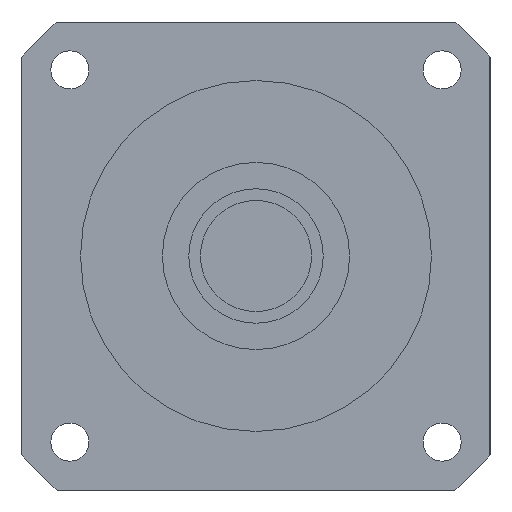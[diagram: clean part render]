
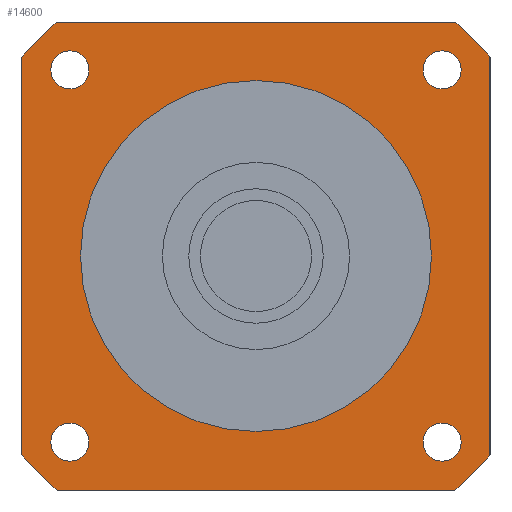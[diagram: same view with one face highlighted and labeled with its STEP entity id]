
A CAD part, left-side view. The second image highlights one B-rep face of the part: STEP entity #14600.
In plain terms, the highlighted planar face has unit normal (-1, 0, 0) as drawn and (0, 0, -1) by its records, which use the part's own axes.
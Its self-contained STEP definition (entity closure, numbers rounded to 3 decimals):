
#12930=CARTESIAN_POINT('',(-28.57,31.82,-42.2));
#12940=VERTEX_POINT('',#12930);
#12970=CARTESIAN_POINT('',(-31.82,31.82,-42.2));
#12980=DIRECTION('',(0.,0.,-1.));
#12990=DIRECTION('',(-1.,0.,0.));
#13000=AXIS2_PLACEMENT_3D('',#12970,#12980,#12990);
#13010=CIRCLE('',#13000,3.25);
#13020=CARTESIAN_POINT('',(-35.07,31.82,-42.2));
#13030=VERTEX_POINT('',#13020);
#13040=EDGE_CURVE('',#13030,#12940,#13010,.T.);
#13160=CARTESIAN_POINT('',(40.,40.,-42.2));
#13170=DIRECTION('',(0.,0.,-1.));
#13180=DIRECTION('',(1.,0.,0.));
#13190=AXIS2_PLACEMENT_3D('',#13160,#13170,#13180);
#13200=PLANE('',#13190);
#13210=CARTESIAN_POINT('',(-31.82,-31.82,-42.2));
#13220=DIRECTION('',(0.,0.,-1.));
#13230=DIRECTION('',(0.,-1.,0.));
#13240=AXIS2_PLACEMENT_3D('',#13210,#13220,#13230);
#13250=CIRCLE('',#13240,3.25);
#13260=CARTESIAN_POINT('',(-31.82,-35.07,-42.2));
#13270=VERTEX_POINT('',#13260);
#13280=CARTESIAN_POINT('',(-31.82,-28.57,-42.2));
#13290=VERTEX_POINT('',#13280);
#13300=EDGE_CURVE('',#13270,#13290,#13250,.T.);
#13310=ORIENTED_EDGE('',*,*,#13300,.F.);
#13320=EDGE_CURVE('',#13290,#13270,#13250,.T.);
#13330=ORIENTED_EDGE('',*,*,#13320,.F.);
#13340=EDGE_LOOP('',(#13330,#13310));
#13350=FACE_BOUND('',#13340,.T.);
#13360=ORIENTED_EDGE('',*,*,#13040,.F.);
#13370=EDGE_CURVE('',#12940,#13030,#13010,.T.);
#13380=ORIENTED_EDGE('',*,*,#13370,.F.);
#13390=EDGE_LOOP('',(#13380,#13360));
#13400=FACE_BOUND('',#13390,.T.);
#13410=CARTESIAN_POINT('',(31.82,31.82,-42.2));
#13420=DIRECTION('',(0.,0.,-1.));
#13430=DIRECTION('',(0.,1.,0.));
#13440=AXIS2_PLACEMENT_3D('',#13410,#13420,#13430);
#13450=CIRCLE('',#13440,3.25);
#13460=CARTESIAN_POINT('',(31.82,35.07,-42.2));
#13470=VERTEX_POINT('',#13460);
#13480=CARTESIAN_POINT('',(31.82,28.57,-42.2));
#13490=VERTEX_POINT('',#13480);
#13500=EDGE_CURVE('',#13470,#13490,#13450,.T.);
#13510=ORIENTED_EDGE('',*,*,#13500,.F.);
#13520=EDGE_CURVE('',#13490,#13470,#13450,.T.);
#13530=ORIENTED_EDGE('',*,*,#13520,.F.);
#13540=EDGE_LOOP('',(#13530,#13510));
#13550=FACE_BOUND('',#13540,.T.);
#13560=CARTESIAN_POINT('',(0.,0.,
-42.2));
#13570=DIRECTION('',(0.,0.,1.));
#13580=DIRECTION('',(0.,1.,0.));
#13590=AXIS2_PLACEMENT_3D('',#13560,#13570,#13580);
#13600=CIRCLE('',#13590,30.);
#13610=CARTESIAN_POINT('',(-30.,0.,-42.2));
#13620=VERTEX_POINT('',#13610);
#13630=CARTESIAN_POINT('',(30.,0.,-42.2));
#13640=VERTEX_POINT('',#13630);
#13650=EDGE_CURVE('',#13620,#13640,#13600,.T.);
#13660=ORIENTED_EDGE('',*,*,#13650,.T.);
#13670=CARTESIAN_POINT('',(0.,30.,-42.2));
#13680=VERTEX_POINT('',#13670);
#13690=EDGE_CURVE('',#13680,#13620,#13600,.T.);
#13700=ORIENTED_EDGE('',*,*,#13690,.T.);
#13710=EDGE_CURVE('',#13640,#13680,#13600,.T.);
#13720=ORIENTED_EDGE('',*,*,#13710,.T.);
#13730=EDGE_LOOP('',(#13720,#13700,#13660));
#13740=FACE_BOUND('',#13730,.T.);
#13750=CARTESIAN_POINT('',(-40.,40.,-42.2));
#13760=DIRECTION('',(1.,0.,0.));
#13770=VECTOR('',#13760,1000.);
#13780=LINE('',#13750,#13770);
#13790=CARTESIAN_POINT('',(-34.004,40.,-42.2));
#13800=VERTEX_POINT('',#13790);
#13810=CARTESIAN_POINT('',(34.004,40.,-42.2));
#13820=VERTEX_POINT('',#13810);
#13830=EDGE_CURVE('',#13800,#13820,#13780,.T.);
#13840=ORIENTED_EDGE('',*,*,#13830,.T.);
#13850=CARTESIAN_POINT('',(0.,0.,
-42.2));
#13860=DIRECTION('',(0.,0.,-1.));
#13870=DIRECTION('',(1.,0.,0.));
#13880=AXIS2_PLACEMENT_3D('',#13850,#13860,#13870);
#13890=CIRCLE('',#13880,52.5);
#13900=CARTESIAN_POINT('',(-40.,34.004,-42.2));
#13910=VERTEX_POINT('',#13900);
#13920=EDGE_CURVE('',#13910,#13800,#13890,.T.);
#13930=ORIENTED_EDGE('',*,*,#13920,.T.);
#13940=CARTESIAN_POINT('',(-40.,-40.,-42.2));
#13950=DIRECTION('',(0.,1.,0.));
#13960=VECTOR('',#13950,1000.);
#13970=LINE('',#13940,#13960);
#13980=CARTESIAN_POINT('',(-40.,-34.004,-42.2));
#13990=VERTEX_POINT('',#13980);
#14000=EDGE_CURVE('',#13990,#13910,#13970,.T.);
#14010=ORIENTED_EDGE('',*,*,#14000,.T.);
#14020=CARTESIAN_POINT('',(0.,0.,
-42.2));
#14030=DIRECTION('',(0.,0.,-1.));
#14040=DIRECTION('',(1.,0.,0.));
#14050=AXIS2_PLACEMENT_3D('',#14020,#14030,#14040);
#14060=CIRCLE('',#14050,52.5);
#14070=CARTESIAN_POINT('',(-34.004,-40.,-42.2));
#14080=VERTEX_POINT('',#14070);
#14090=EDGE_CURVE('',#14080,#13990,#14060,.T.);
#14100=ORIENTED_EDGE('',*,*,#14090,.T.);
#14110=CARTESIAN_POINT('',(40.,-40.,-42.2));
#14120=DIRECTION('',(-1.,0.,0.));
#14130=VECTOR('',#14120,1000.);
#14140=LINE('',#14110,#14130);
#14150=CARTESIAN_POINT('',(34.004,-40.,-42.2));
#14160=VERTEX_POINT('',#14150);
#14170=EDGE_CURVE('',#14160,#14080,#14140,.T.);
#14180=ORIENTED_EDGE('',*,*,#14170,.T.);
#14190=CARTESIAN_POINT('',(0.,0.,
-42.2));
#14200=DIRECTION('',(0.,0.,-1.));
#14210=DIRECTION('',(1.,0.,0.));
#14220=AXIS2_PLACEMENT_3D('',#14190,#14200,#14210);
#14230=CIRCLE('',#14220,52.5);
#14240=CARTESIAN_POINT('',(40.,-34.004,-42.2));
#14250=VERTEX_POINT('',#14240);
#14260=EDGE_CURVE('',#14250,#14160,#14230,.T.);
#14270=ORIENTED_EDGE('',*,*,#14260,.T.);
#14280=CARTESIAN_POINT('',(40.,40.,-42.2));
#14290=DIRECTION('',(0.,-1.,0.));
#14300=VECTOR('',#14290,1000.);
#14310=LINE('',#14280,#14300);
#14320=CARTESIAN_POINT('',(40.,34.004,-42.2));
#14330=VERTEX_POINT('',#14320);
#14340=EDGE_CURVE('',#14330,#14250,#14310,.T.);
#14350=ORIENTED_EDGE('',*,*,#14340,.T.);
#14360=CARTESIAN_POINT('',(0.,0.,
-42.2));
#14370=DIRECTION('',(0.,0.,-1.));
#14380=DIRECTION('',(1.,0.,0.));
#14390=AXIS2_PLACEMENT_3D('',#14360,#14370,#14380);
#14400=CIRCLE('',#14390,52.5);
#14410=EDGE_CURVE('',#13820,#14330,#14400,.T.);
#14420=ORIENTED_EDGE('',*,*,#14410,.T.);
#14430=EDGE_LOOP('',(#14420,#14350,#14270,#14180,#14100,#14010,#13930,
#13840));
#14440=FACE_OUTER_BOUND('',#14430,.T.);
#14450=CARTESIAN_POINT('',(31.82,-31.82,-42.2));
#14460=DIRECTION('',(0.,0.,-1.));
#14470=DIRECTION('',(1.,0.,0.));
#14480=AXIS2_PLACEMENT_3D('',#14450,#14460,#14470);
#14490=CIRCLE('',#14480,3.25);
#14500=CARTESIAN_POINT('',(35.07,-31.82,-42.2));
#14510=VERTEX_POINT('',#14500);
#14520=CARTESIAN_POINT('',(28.57,-31.82,-42.2));
#14530=VERTEX_POINT('',#14520);
#14540=EDGE_CURVE('',#14510,#14530,#14490,.T.);
#14550=ORIENTED_EDGE('',*,*,#14540,.F.);
#14560=EDGE_CURVE('',#14530,#14510,#14490,.T.);
#14570=ORIENTED_EDGE('',*,*,#14560,.F.);
#14580=EDGE_LOOP('',(#14570,#14550));
#14590=FACE_BOUND('',#14580,.T.);
#14600=ADVANCED_FACE('',(#13350,#13400,#13550,#13740,#14440,#14590),
#13200,.T.);
